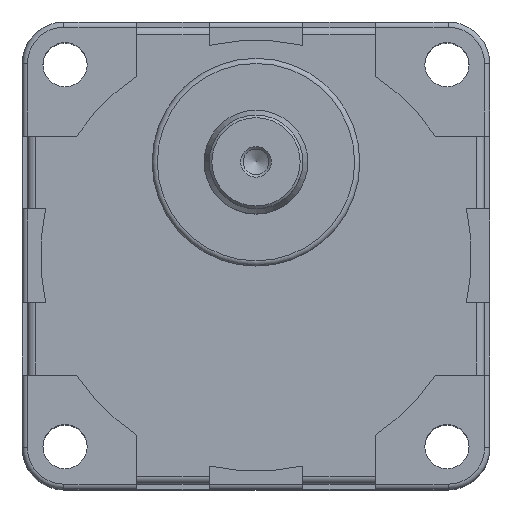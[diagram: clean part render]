
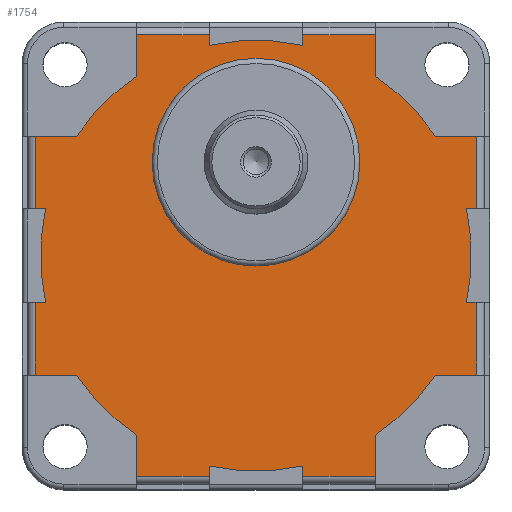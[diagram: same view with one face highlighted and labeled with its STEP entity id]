
A CAD part, top view. The second image highlights one B-rep face of the part: STEP entity #1754.
In plain terms, the highlighted planar face has unit normal (0, 0, 1).
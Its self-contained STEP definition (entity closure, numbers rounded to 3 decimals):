
#25=LINE('',#2666,#188);
#29=LINE('',#2678,#192);
#31=LINE('',#2684,#194);
#32=LINE('',#2688,#195);
#33=LINE('',#2690,#196);
#34=LINE('',#2692,#197);
#35=LINE('',#2696,#198);
#36=LINE('',#2698,#199);
#37=LINE('',#2700,#200);
#38=LINE('',#2704,#201);
#39=LINE('',#2706,#202);
#40=LINE('',#2708,#203);
#41=LINE('',#2712,#204);
#42=LINE('',#2714,#205);
#43=LINE('',#2716,#206);
#44=LINE('',#2720,#207);
#45=LINE('',#2722,#208);
#46=LINE('',#2724,#209);
#47=LINE('',#2728,#210);
#48=LINE('',#2730,#211);
#49=LINE('',#2732,#212);
#50=LINE('',#2735,#213);
#51=LINE('',#2737,#214);
#52=LINE('',#2740,#215);
#188=VECTOR('',#2129,14.);
#192=VECTOR('',#2139,14.);
#194=VECTOR('',#2145,7.957);
#195=VECTOR('',#2148,7.957);
#196=VECTOR('',#2149,14.);
#197=VECTOR('',#2150,1.988);
#198=VECTOR('',#2153,1.988);
#199=VECTOR('',#2154,14.);
#200=VECTOR('',#2155,7.957);
#201=VECTOR('',#2158,7.957);
#202=VECTOR('',#2159,14.);
#203=VECTOR('',#2160,1.988);
#204=VECTOR('',#2163,1.988);
#205=VECTOR('',#2164,14.);
#206=VECTOR('',#2165,7.957);
#207=VECTOR('',#2168,7.957);
#208=VECTOR('',#2169,14.);
#209=VECTOR('',#2170,1.988);
#210=VECTOR('',#2173,1.988);
#211=VECTOR('',#2174,14.);
#212=VECTOR('',#2175,7.957);
#213=VECTOR('',#2178,7.957);
#214=VECTOR('',#2179,1.988);
#215=VECTOR('',#2182,1.988);
#352=PLANE('',#1887);
#422=FACE_BOUND('',#575,.T.);
#452=FACE_OUTER_BOUND('',#574,.T.);
#574=EDGE_LOOP('',(#1241,#1242,#1243,#1244,#1245,#1246,#1247,#1248,#1249,
#1250,#1251,#1252,#1253,#1254,#1255,#1256,#1257,#1258,#1259,#1260,#1261,
#1262,#1263,#1264,#1265,#1266,#1267,#1268,#1269,#1270,#1271,#1272));
#575=EDGE_LOOP('',(#1273));
#688=CIRCLE('',#1878,20.);
#693=CIRCLE('',#1888,41.5);
#694=CIRCLE('',#1889,41.5);
#695=CIRCLE('',#1890,41.5);
#696=CIRCLE('',#1891,41.5);
#697=CIRCLE('',#1892,41.5);
#698=CIRCLE('',#1893,41.5);
#699=CIRCLE('',#1894,41.5);
#700=CIRCLE('',#1895,41.5);
#783=VERTEX_POINT('',#2655);
#784=VERTEX_POINT('',#2659);
#787=VERTEX_POINT('',#2664);
#791=VERTEX_POINT('',#2675);
#792=VERTEX_POINT('',#2677);
#794=VERTEX_POINT('',#2683);
#795=VERTEX_POINT('',#2685);
#796=VERTEX_POINT('',#2687);
#797=VERTEX_POINT('',#2689);
#798=VERTEX_POINT('',#2691);
#799=VERTEX_POINT('',#2693);
#800=VERTEX_POINT('',#2695);
#801=VERTEX_POINT('',#2697);
#802=VERTEX_POINT('',#2699);
#803=VERTEX_POINT('',#2701);
#804=VERTEX_POINT('',#2703);
#805=VERTEX_POINT('',#2705);
#806=VERTEX_POINT('',#2707);
#807=VERTEX_POINT('',#2709);
#808=VERTEX_POINT('',#2711);
#809=VERTEX_POINT('',#2713);
#810=VERTEX_POINT('',#2715);
#811=VERTEX_POINT('',#2717);
#812=VERTEX_POINT('',#2719);
#813=VERTEX_POINT('',#2721);
#814=VERTEX_POINT('',#2723);
#815=VERTEX_POINT('',#2725);
#816=VERTEX_POINT('',#2727);
#817=VERTEX_POINT('',#2729);
#818=VERTEX_POINT('',#2731);
#819=VERTEX_POINT('',#2733);
#820=VERTEX_POINT('',#2736);
#821=VERTEX_POINT('',#2738);
#958=EDGE_CURVE('',#783,#783,#688,.T.);
#962=EDGE_CURVE('',#787,#784,#25,.T.);
#967=EDGE_CURVE('',#791,#792,#29,.T.);
#970=EDGE_CURVE('',#787,#794,#31,.T.);
#971=EDGE_CURVE('',#795,#794,#693,.T.);
#972=EDGE_CURVE('',#796,#795,#32,.T.);
#973=EDGE_CURVE('',#797,#796,#33,.T.);
#974=EDGE_CURVE('',#798,#797,#34,.T.);
#975=EDGE_CURVE('',#799,#798,#694,.T.);
#976=EDGE_CURVE('',#799,#800,#35,.T.);
#977=EDGE_CURVE('',#801,#800,#36,.T.);
#978=EDGE_CURVE('',#801,#802,#37,.T.);
#979=EDGE_CURVE('',#803,#802,#695,.T.);
#980=EDGE_CURVE('',#804,#803,#38,.T.);
#981=EDGE_CURVE('',#805,#804,#39,.T.);
#982=EDGE_CURVE('',#806,#805,#40,.T.);
#983=EDGE_CURVE('',#807,#806,#696,.T.);
#984=EDGE_CURVE('',#807,#808,#41,.T.);
#985=EDGE_CURVE('',#809,#808,#42,.T.);
#986=EDGE_CURVE('',#809,#810,#43,.T.);
#987=EDGE_CURVE('',#811,#810,#697,.T.);
#988=EDGE_CURVE('',#812,#811,#44,.T.);
#989=EDGE_CURVE('',#813,#812,#45,.T.);
#990=EDGE_CURVE('',#814,#813,#46,.T.);
#991=EDGE_CURVE('',#815,#814,#698,.T.);
#992=EDGE_CURVE('',#815,#816,#47,.T.);
#993=EDGE_CURVE('',#817,#816,#48,.T.);
#994=EDGE_CURVE('',#817,#818,#49,.T.);
#995=EDGE_CURVE('',#819,#818,#699,.T.);
#996=EDGE_CURVE('',#792,#819,#50,.T.);
#997=EDGE_CURVE('',#820,#791,#51,.T.);
#998=EDGE_CURVE('',#821,#820,#700,.T.);
#999=EDGE_CURVE('',#821,#784,#52,.T.);
#1241=ORIENTED_EDGE('',*,*,#962,.F.);
#1242=ORIENTED_EDGE('',*,*,#970,.T.);
#1243=ORIENTED_EDGE('',*,*,#971,.F.);
#1244=ORIENTED_EDGE('',*,*,#972,.F.);
#1245=ORIENTED_EDGE('',*,*,#973,.F.);
#1246=ORIENTED_EDGE('',*,*,#974,.F.);
#1247=ORIENTED_EDGE('',*,*,#975,.F.);
#1248=ORIENTED_EDGE('',*,*,#976,.T.);
#1249=ORIENTED_EDGE('',*,*,#977,.F.);
#1250=ORIENTED_EDGE('',*,*,#978,.T.);
#1251=ORIENTED_EDGE('',*,*,#979,.F.);
#1252=ORIENTED_EDGE('',*,*,#980,.F.);
#1253=ORIENTED_EDGE('',*,*,#981,.F.);
#1254=ORIENTED_EDGE('',*,*,#982,.F.);
#1255=ORIENTED_EDGE('',*,*,#983,.F.);
#1256=ORIENTED_EDGE('',*,*,#984,.T.);
#1257=ORIENTED_EDGE('',*,*,#985,.F.);
#1258=ORIENTED_EDGE('',*,*,#986,.T.);
#1259=ORIENTED_EDGE('',*,*,#987,.F.);
#1260=ORIENTED_EDGE('',*,*,#988,.F.);
#1261=ORIENTED_EDGE('',*,*,#989,.F.);
#1262=ORIENTED_EDGE('',*,*,#990,.F.);
#1263=ORIENTED_EDGE('',*,*,#991,.F.);
#1264=ORIENTED_EDGE('',*,*,#992,.T.);
#1265=ORIENTED_EDGE('',*,*,#993,.F.);
#1266=ORIENTED_EDGE('',*,*,#994,.T.);
#1267=ORIENTED_EDGE('',*,*,#995,.F.);
#1268=ORIENTED_EDGE('',*,*,#996,.F.);
#1269=ORIENTED_EDGE('',*,*,#967,.F.);
#1270=ORIENTED_EDGE('',*,*,#997,.F.);
#1271=ORIENTED_EDGE('',*,*,#998,.F.);
#1272=ORIENTED_EDGE('',*,*,#999,.T.);
#1273=ORIENTED_EDGE('',*,*,#958,.F.);
#1754=ADVANCED_FACE('',(#452,#422),#352,.T.);
#1878=AXIS2_PLACEMENT_3D('',#2656,#2118,#2119);
#1887=AXIS2_PLACEMENT_3D('',#2682,#2143,#2144);
#1888=AXIS2_PLACEMENT_3D('',#2686,#2146,#2147);
#1889=AXIS2_PLACEMENT_3D('',#2694,#2151,#2152);
#1890=AXIS2_PLACEMENT_3D('',#2702,#2156,#2157);
#1891=AXIS2_PLACEMENT_3D('',#2710,#2161,#2162);
#1892=AXIS2_PLACEMENT_3D('',#2718,#2166,#2167);
#1893=AXIS2_PLACEMENT_3D('',#2726,#2171,#2172);
#1894=AXIS2_PLACEMENT_3D('',#2734,#2176,#2177);
#1895=AXIS2_PLACEMENT_3D('',#2739,#2180,#2181);
#2118=DIRECTION('center_axis',(0.,0.,1.));
#2119=DIRECTION('ref_axis',(-1.,0.,0.));
#2129=DIRECTION('',(0.,-1.,0.));
#2139=DIRECTION('',(0.,-1.,0.));
#2143=DIRECTION('center_axis',(0.,0.,1.));
#2144=DIRECTION('ref_axis',(1.,0.,0.));
#2145=DIRECTION('',(-1.,0.,0.));
#2146=DIRECTION('center_axis',(0.,0.,-1.));
#2147=DIRECTION('ref_axis',(-1.,0.,0.));
#2148=DIRECTION('',(0.,-1.,0.));
#2149=DIRECTION('',(1.,0.,0.));
#2150=DIRECTION('',(0.,1.,0.));
#2151=DIRECTION('center_axis',(0.,0.,-1.));
#2152=DIRECTION('ref_axis',(-1.,0.,0.));
#2153=DIRECTION('',(0.,1.,0.));
#2154=DIRECTION('',(1.,0.,0.));
#2155=DIRECTION('',(0.,-1.,0.));
#2156=DIRECTION('center_axis',(0.,0.,-1.));
#2157=DIRECTION('ref_axis',(-1.,0.,0.));
#2158=DIRECTION('',(1.,0.,0.));
#2159=DIRECTION('',(0.,1.,0.));
#2160=DIRECTION('',(-1.,0.,0.));
#2161=DIRECTION('center_axis',(0.,0.,-1.));
#2162=DIRECTION('ref_axis',(-1.,0.,0.));
#2163=DIRECTION('',(-1.,0.,0.));
#2164=DIRECTION('',(0.,1.,0.));
#2165=DIRECTION('',(1.,0.,0.));
#2166=DIRECTION('center_axis',(0.,0.,-1.));
#2167=DIRECTION('ref_axis',(-1.,0.,0.));
#2168=DIRECTION('',(0.,1.,0.));
#2169=DIRECTION('',(-1.,0.,0.));
#2170=DIRECTION('',(0.,-1.,0.));
#2171=DIRECTION('center_axis',(0.,0.,-1.));
#2172=DIRECTION('ref_axis',(-1.,0.,0.));
#2173=DIRECTION('',(0.,-1.,0.));
#2174=DIRECTION('',(-1.,0.,0.));
#2175=DIRECTION('',(0.,1.,0.));
#2176=DIRECTION('center_axis',(0.,0.,-1.));
#2177=DIRECTION('ref_axis',(-1.,0.,0.));
#2178=DIRECTION('',(-1.,0.,0.));
#2179=DIRECTION('',(1.,0.,0.));
#2180=DIRECTION('center_axis',(0.,0.,-1.));
#2181=DIRECTION('ref_axis',(-1.,0.,0.));
#2182=DIRECTION('',(1.,0.,0.));
#2655=CARTESIAN_POINT('',(20.,18.,69.2));
#2656=CARTESIAN_POINT('Origin',(0.,18.,69.2));
#2659=CARTESIAN_POINT('',(42.5,9.,69.2));
#2664=CARTESIAN_POINT('',(42.5,23.,69.2));
#2666=CARTESIAN_POINT('',(42.5,11.5,69.2));
#2675=CARTESIAN_POINT('',(42.5,-9.,69.2));
#2677=CARTESIAN_POINT('',(42.5,-23.,69.2));
#2678=CARTESIAN_POINT('',(42.5,-11.5,69.2));
#2682=CARTESIAN_POINT('Origin',(0.,0.,
69.2));
#2683=CARTESIAN_POINT('',(34.543,23.,69.2));
#2684=CARTESIAN_POINT('',(34.543,23.,69.2));
#2685=CARTESIAN_POINT('',(23.,34.543,69.2));
#2686=CARTESIAN_POINT('Origin',(0.,0.,69.2));
#2687=CARTESIAN_POINT('',(23.,42.5,69.2));
#2688=CARTESIAN_POINT('',(23.,34.543,69.2));
#2689=CARTESIAN_POINT('',(9.,42.5,69.2));
#2690=CARTESIAN_POINT('',(11.5,42.5,69.2));
#2691=CARTESIAN_POINT('',(9.,40.512,69.2));
#2692=CARTESIAN_POINT('',(9.,45.,69.2));
#2693=CARTESIAN_POINT('',(-9.,40.512,69.2));
#2694=CARTESIAN_POINT('Origin',(0.,0.,69.2));
#2695=CARTESIAN_POINT('',(-9.,42.5,69.2));
#2696=CARTESIAN_POINT('',(-9.,45.,69.2));
#2697=CARTESIAN_POINT('',(-23.,42.5,69.2));
#2698=CARTESIAN_POINT('',(-11.5,42.5,69.2));
#2699=CARTESIAN_POINT('',(-23.,34.543,69.2));
#2700=CARTESIAN_POINT('',(-23.,34.543,69.2));
#2701=CARTESIAN_POINT('',(-34.543,23.,69.2));
#2702=CARTESIAN_POINT('Origin',(0.,0.,69.2));
#2703=CARTESIAN_POINT('',(-42.5,23.,69.2));
#2704=CARTESIAN_POINT('',(-34.543,23.,69.2));
#2705=CARTESIAN_POINT('',(-42.5,9.,69.2));
#2706=CARTESIAN_POINT('',(-42.5,11.5,69.2));
#2707=CARTESIAN_POINT('',(-40.512,9.,69.2));
#2708=CARTESIAN_POINT('',(-45.,9.,69.2));
#2709=CARTESIAN_POINT('',(-40.512,-9.,69.2));
#2710=CARTESIAN_POINT('Origin',(0.,0.,69.2));
#2711=CARTESIAN_POINT('',(-42.5,-9.,69.2));
#2712=CARTESIAN_POINT('',(-45.,-9.,69.2));
#2713=CARTESIAN_POINT('',(-42.5,-23.,69.2));
#2714=CARTESIAN_POINT('',(-42.5,-11.5,69.2));
#2715=CARTESIAN_POINT('',(-34.543,-23.,69.2));
#2716=CARTESIAN_POINT('',(-34.543,-23.,69.2));
#2717=CARTESIAN_POINT('',(-23.,-34.543,69.2));
#2718=CARTESIAN_POINT('Origin',(0.,0.,69.2));
#2719=CARTESIAN_POINT('',(-23.,-42.5,69.2));
#2720=CARTESIAN_POINT('',(-23.,-34.543,69.2));
#2721=CARTESIAN_POINT('',(-9.,-42.5,69.2));
#2722=CARTESIAN_POINT('',(-11.5,-42.5,69.2));
#2723=CARTESIAN_POINT('',(-9.,-40.512,69.2));
#2724=CARTESIAN_POINT('',(-9.,-45.,69.2));
#2725=CARTESIAN_POINT('',(9.,-40.512,69.2));
#2726=CARTESIAN_POINT('Origin',(0.,0.,69.2));
#2727=CARTESIAN_POINT('',(9.,-42.5,69.2));
#2728=CARTESIAN_POINT('',(9.,-45.,69.2));
#2729=CARTESIAN_POINT('',(23.,-42.5,69.2));
#2730=CARTESIAN_POINT('',(11.5,-42.5,69.2));
#2731=CARTESIAN_POINT('',(23.,-34.543,69.2));
#2732=CARTESIAN_POINT('',(23.,-34.543,69.2));
#2733=CARTESIAN_POINT('',(34.543,-23.,69.2));
#2734=CARTESIAN_POINT('Origin',(0.,0.,69.2));
#2735=CARTESIAN_POINT('',(34.543,-23.,69.2));
#2736=CARTESIAN_POINT('',(40.512,-9.,69.2));
#2737=CARTESIAN_POINT('',(45.,-9.,69.2));
#2738=CARTESIAN_POINT('',(40.512,9.,69.2));
#2739=CARTESIAN_POINT('Origin',(0.,0.,69.2));
#2740=CARTESIAN_POINT('',(45.,9.,69.2));
